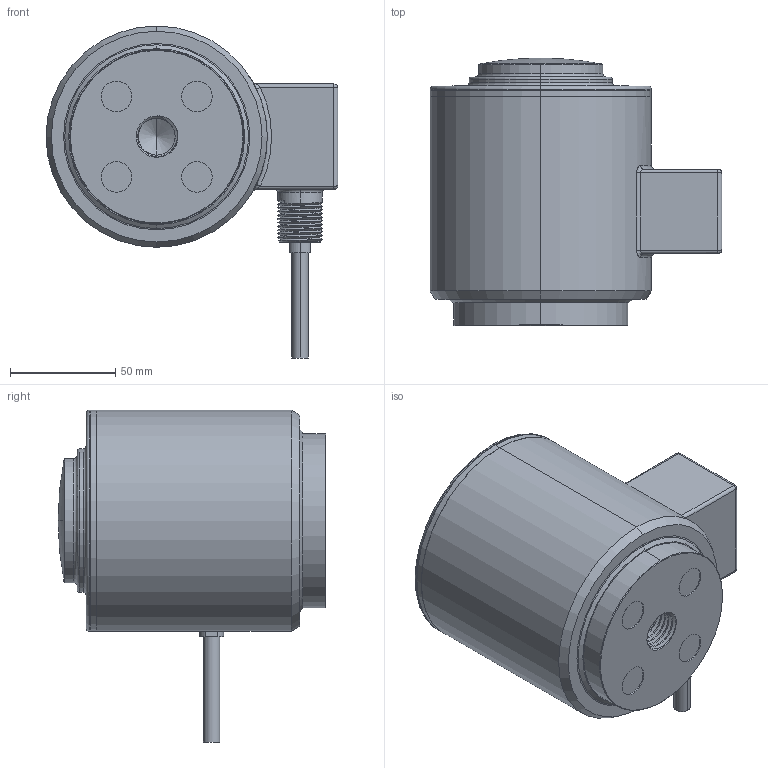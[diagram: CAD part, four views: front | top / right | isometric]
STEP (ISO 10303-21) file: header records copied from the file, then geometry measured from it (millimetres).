
FILE_DESCRIPTION (( 'STEP AP203' ), '1' );
FILE_NAME ('LCC02(40-60t).STEP', '2024-12-12T05:10:31', ( '' ), ( '' ), 'SwSTEP 2.0', 'SolidWorks 2019', '' );
FILE_SCHEMA (( 'CONFIG_CONTROL_DESIGN' ));
Length unit declared in the file: millimetre
Products named in the file (1): LCC02(40-60t)
Bounding box: 138.5 x 127 x 157.5 mm (x, y, z)
Volume: 1052539.7 mm3; surface area: 66843.4 mm2
Topology: 1 solids, 1 shells, 151 faces, 361 edges, 223 vertices
Faces by surface type: cylinder 81, plane 25, cone 16, torus 14, bspline 13, sphere 2
Entity records: 11804 total; most frequent: CARTESIAN_POINT 8508, ORIENTED_EDGE 710, DIRECTION 640, EDGE_CURVE 355, AXIS2_PLACEMENT_3D 263, VERTEX_POINT 223, EDGE_LOOP 168, FACE_OUTER_BOUND 151
